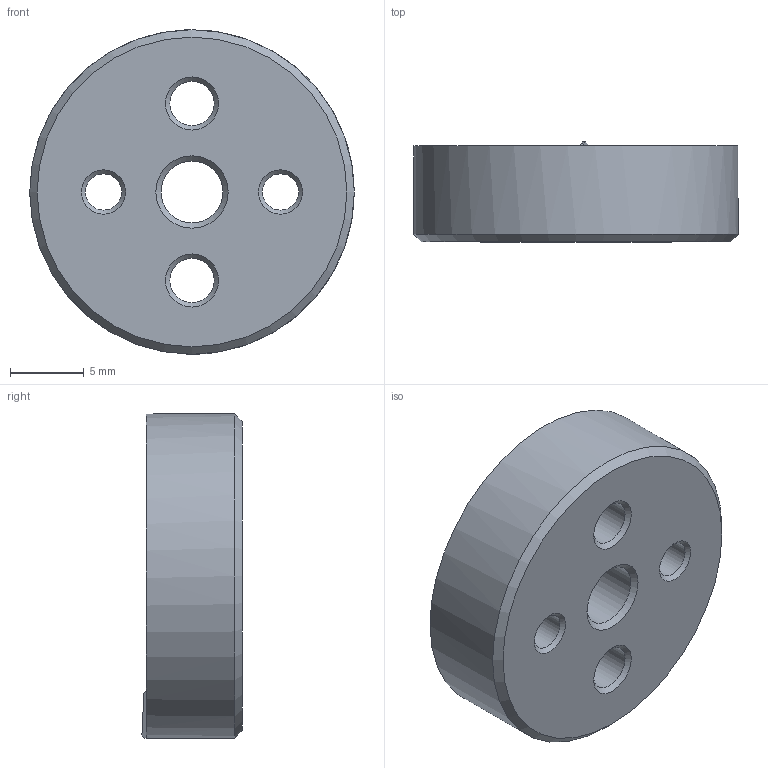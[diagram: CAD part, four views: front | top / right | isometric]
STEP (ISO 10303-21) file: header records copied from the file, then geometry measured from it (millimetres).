
FILE_DESCRIPTION( ( 'STEP AP203' ), '1' );
FILE_NAME( 'C:/Temp/Ganter_Step_05_03_2020/data/3_2/gn187_4/gn187_4_st/Serrated locking plate GN 187.4-22-60-D-ST.stp', '2020-03-13T05:25:46', ( 'License CC BY-ND 4.0' ), ( 'CADENAS' ), ' ', 'PARTsolutions', ' ' );
FILE_SCHEMA( ( 'CONFIG_CONTROL_DESIGN' ) );
Length unit declared in the file: millimetre
Products named in the file (1): _Serrated locking plate GN 187.4-22-60-D-ST
Bounding box: 22 x 6.79 x 22 mm (x, y, z)
Volume: 2062.9 mm3; surface area: 1413.8 mm2
Topology: 1 solids, 1 shells, 30 faces, 74 edges, 46 vertices
Faces by surface type: cone 14, cylinder 9, plane 7
Full cylindrical faces by diameter (mm): 2.459 x2, 3 x2, 4.2 x1, 15.5 x1, 22 x1
Entity records: 924 total; most frequent: CARTESIAN_POINT 229, DIRECTION 142, ORIENTED_EDGE 106, AXIS2_PLACEMENT_3D 68, EDGE_LOOP 58, EDGE_CURVE 53, VERTEX_POINT 43, FACE_OUTER_BOUND 37
